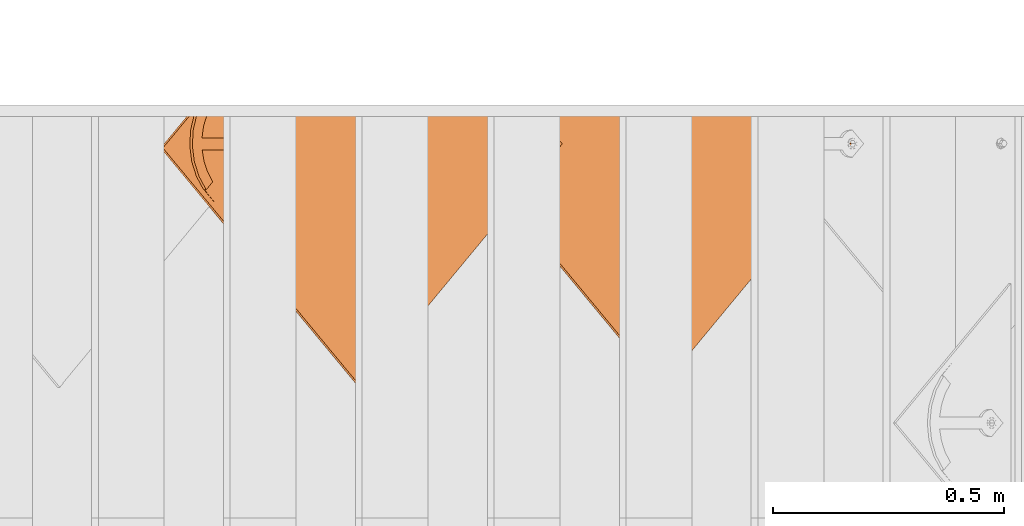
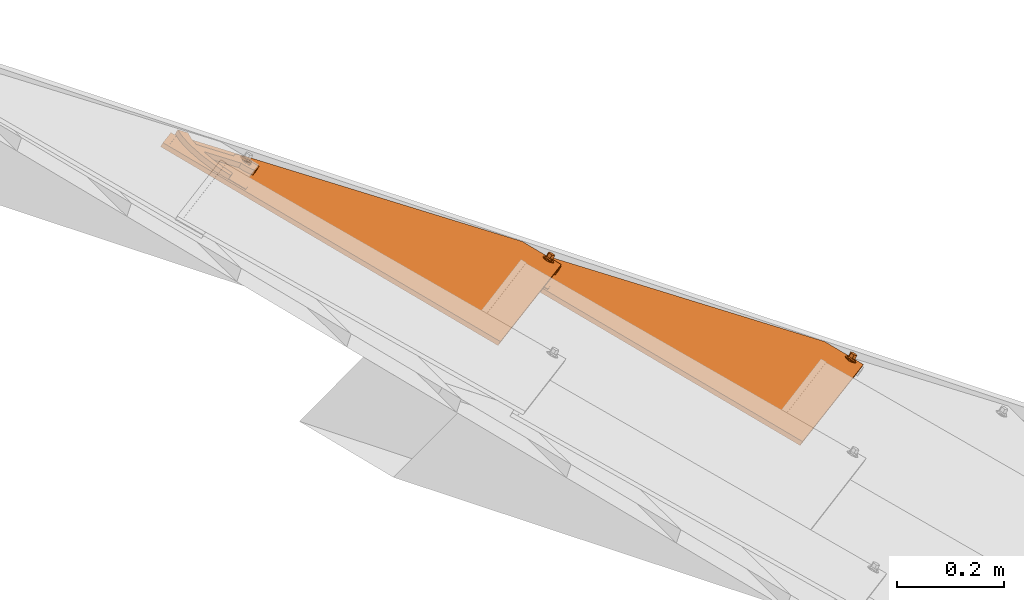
# One storey, part 88 of 133: 2 proxies.
"""IFC2X3 building model written with IfcOpenShell, lengths in millimetres."""

import ifcopenshell
import ifcopenshell.guid

model = None  # the IFC model being written
_history = None  # IfcOwnerHistory: only IFC2X3 demands one
_inside = {}  # id of a spatial element -> (the spatial element, [elements in it])
_under = {}  # id of a project, library or spatial element -> (it, [spatial elements below it])
_declared = {}  # id of a project -> (the project, [libraries it declares])
_typed = {}  # id of a type object -> (the type object, [elements of that type])
_made_of = {}  # id of a material, layer set ... -> (it, [elements and type objects made of it])


def new_model(schema):
    """Start an empty IFC model of exactly this schema.

    Asked for "IFC4X3", IfcOpenShell would pick the latest addendum, in which some entities
    have other attributes; the version numbers below select the first issue.
    IFC2X3 requires an IfcOwnerHistory on every rooted entity: one is made here for all.
    """
    global model, _history
    if schema == "IFC4X3":
        model = ifcopenshell.file(schema_version=(4, 3, 0, 0))
    else:
        model = ifcopenshell.file(schema=schema)
    _inside.clear()
    _under.clear()
    _declared.clear()
    _typed.clear()
    _made_of.clear()
    _history = None
    if model.schema == "IFC2X3":
        org = make("IfcOrganization", Name="unknown")
        user = make(
            "IfcPersonAndOrganization",
            ThePerson=make("IfcPerson", FamilyName="unknown"),
            TheOrganization=org,
        )
        app = make(
            "IfcApplication",
            ApplicationDeveloper=org,
            Version="unknown",
            ApplicationFullName="unknown",
            ApplicationIdentifier="unknown",
        )
        _history = make(
            "IfcOwnerHistory",
            OwningUser=user,
            OwningApplication=app,
            ChangeAction="ADDED",
            CreationDate=0,
        )
    return model


def make(cls, **values):
    """One entity of the class cls with the attributes given. An attribute that is None is left unset."""
    return model.create_entity(
        cls, **{name: value for name, value in values.items() if value is not None}
    )


def entity(cls, *values):
    """Any entity or typed value of the class cls, its attributes in the order of the schema. None: left unset."""
    e = model.create_entity(cls)
    for i, value in enumerate(values):
        if value is not None:
            e[i] = value
    return e


def rooted(cls, **values):
    """An entity with a GlobalId (a new one), such as an element, a storey or a relation."""
    return make(cls, GlobalId=ifcopenshell.guid.new(), OwnerHistory=_history, **values)


def si_unit(unit_type, name, prefix=None):
    """IfcSIUnit, for example si_unit("LENGTHUNIT", "METRE", prefix="MILLI")."""
    return make("IfcSIUnit", UnitType=unit_type, Prefix=prefix, Name=name)


def converted_unit(unit_type, name, factor, base, dimensions=None, offset=None):
    """IfcConversionBasedUnit, such as the inch: factor (a typed value) times the base unit."""
    return make(
        "IfcConversionBasedUnit"
        if offset is None
        else "IfcConversionBasedUnitWithOffset",
        ConversionOffset=offset,
        Dimensions=None
        if dimensions is None
        else entity("IfcDimensionalExponents", *dimensions),
        UnitType=unit_type,
        Name=name,
        ConversionFactor=make(
            "IfcMeasureWithUnit", ValueComponent=factor, UnitComponent=base
        ),
    )


def derived_unit(unit_type, elements):
    """IfcDerivedUnit: a product of units, each with its exponent."""
    return make(
        "IfcDerivedUnit",
        Elements=[
            make("IfcDerivedUnitElement", Unit=unit, Exponent=power)
            for unit, power in elements
        ],
        UnitType=unit_type,
    )


def assignment(units):
    """IfcUnitAssignment: the units of a project."""
    return None if units is None else make("IfcUnitAssignment", Units=units)


def point(xyz):
    """IfcCartesianPoint."""
    return None if xyz is None else make("IfcCartesianPoint", Coordinates=xyz)


def direction(xyz):
    """IfcDirection."""
    return None if xyz is None else make("IfcDirection", DirectionRatios=xyz)


def frame(location, z_axis=None, x_axis=None):
    """IfcAxis2Placement3D, a coordinate frame: its origin and axes. An axis left out is left unset."""
    return make(
        "IfcAxis2Placement3D",
        Location=point(location),
        Axis=direction(z_axis),
        RefDirection=direction(x_axis),
    )


def origin():
    """The frame at (0, 0, 0) with its axes left unset."""
    return frame((0.0, 0.0, 0.0))


def place(relative_to, where):
    """IfcLocalPlacement: puts the frame where relative to a parent placement (None: the world)."""
    return make(
        "IfcLocalPlacement", PlacementRelTo=relative_to, RelativePlacement=where
    )


def context(
    kind, dimensions, precision=None, world=None, true_north=None, identifier=None
):
    """IfcGeometricRepresentationContext, for example the 3D "Model" context."""
    return make(
        "IfcGeometricRepresentationContext",
        ContextIdentifier=identifier,
        ContextType=kind,
        CoordinateSpaceDimension=dimensions,
        Precision=precision,
        WorldCoordinateSystem=world,
        TrueNorth=true_north,
    )


def subcontext(parent, identifier, kind, view, scale=None):
    """IfcGeometricRepresentationSubContext, for example "Body" below "Model"."""
    return make(
        "IfcGeometricRepresentationSubContext",
        ContextIdentifier=identifier,
        ContextType=kind,
        ParentContext=parent,
        TargetScale=scale,
        TargetView=view,
    )


def project(units=None, contexts=None):
    """IfcProject with its units and contexts."""
    return rooted(
        "IfcProject",
        Name="project",
        RepresentationContexts=contexts,
        UnitsInContext=assignment(units),
    )


def spatial(cls, under=None, at=None, **own):
    """A site, building, storey or space (cls), placed at a placement, below another one or the project."""
    s = rooted(cls, ObjectPlacement=at, **own)
    if under is not None:
        _under.setdefault(under.id(), (under, []))[1].append(s)
    return s


def faces_of(points, faces, orient=None, outer=None):
    """IfcFace entities. A face is a list of loops; a loop is a list of indices into points, from 0.

    orient and outer hold one flag for each loop. By default every Orientation is true, the
    first loop of a face is its IfcFaceOuterBound and the others are IfcFaceBound.
    """
    made = []
    for i, loops in enumerate(faces):
        bounds = []
        for j, loop in enumerate(loops):
            is_outer = j == 0 if outer is None else outer[i][j]
            bounds.append(
                make(
                    "IfcFaceOuterBound" if is_outer else "IfcFaceBound",
                    Bound=make("IfcPolyLoop", Polygon=[points[k] for k in loop]),
                    Orientation=True if orient is None else orient[i][j],
                )
            )
        made.append(make("IfcFace", Bounds=bounds))
    return made


def faceted_brep(points, faces, orient=None, outer=None, voids=None):
    """IfcFacetedBrep: a solid bounded by flat faces; with voids (closed shells), ...WithVoids."""
    shared = [point(p) for p in points]
    hull = make("IfcClosedShell", CfsFaces=faces_of(shared, faces, orient, outer))
    if voids is None:
        return make("IfcFacetedBrep", Outer=hull)
    return make(
        "IfcFacetedBrepWithVoids",
        Outer=hull,
        Voids=[
            make(cls, CfsFaces=faces_of(shared, fs, o, b)) for cls, fs, o, b in voids
        ],
    )


def shape(context_of_items, identifier, shape_type, items):
    """IfcShapeRepresentation: the items that make up one representation, for example the "Body"."""
    return make(
        "IfcShapeRepresentation",
        ContextOfItems=context_of_items,
        RepresentationIdentifier=identifier,
        RepresentationType=shape_type,
        Items=items,
    )


def source(mapping_origin, context_of_items, identifier, shape_type, items):
    """IfcRepresentationMap: a shape defined once, which mapped items show again and again."""
    return make(
        "IfcRepresentationMap",
        MappingOrigin=mapping_origin,
        MappedRepresentation=shape(context_of_items, identifier, shape_type, items),
    )


def transform(
    local_origin,
    x_axis=None,
    y_axis=None,
    z_axis=None,
    scale=None,
    scale2=None,
    scale3=None,
    uniform=True,
):
    """IfcCartesianTransformationOperator3D, or its non-uniform kind. x_axis, y_axis, z_axis: its Axis1, 2, 3."""
    if uniform:
        return make(
            "IfcCartesianTransformationOperator3D",
            Axis1=direction(x_axis),
            Axis2=direction(y_axis),
            LocalOrigin=point(local_origin),
            Scale=scale,
            Axis3=direction(z_axis),
        )
    return make(
        "IfcCartesianTransformationOperator3DnonUniform",
        Axis1=direction(x_axis),
        Axis2=direction(y_axis),
        LocalOrigin=point(local_origin),
        Scale=scale,
        Axis3=direction(z_axis),
        Scale2=scale2,
        Scale3=scale3,
    )


def mapped(mapping_source, mapping_target):
    """IfcMappedItem: shows the shape of a source again, moved by a transform."""
    return make(
        "IfcMappedItem", MappingSource=mapping_source, MappingTarget=mapping_target
    )


def material(Name=None, Category=None):
    """IfcMaterial."""
    return make("IfcMaterial", Name=Name, Category=Category)


def material_list(materials):
    """IfcMaterialList."""
    return make("IfcMaterialList", Materials=materials)


def made_of(thing, what):
    """Note that an element or type object is made of a material, layer set ...; save() writes the relation."""
    if what is not None:
        _made_of.setdefault(what.id(), (what, []))[1].append(thing)
    return thing


def type_object(cls, material=None, **own):
    """A type object (cls), such as IfcWallType, which elements share."""
    return made_of(rooted(cls, **own), material)


def type_shapes(of_type, sources):
    """Give a type object the sources (RepresentationMaps) that its elements show as mapped items."""
    of_type.RepresentationMaps = sources


def element(
    cls,
    number,
    at=None,
    inside=None,
    cuts=None,
    type_object=None,
    material=None,
    context=None,
    identifier="Body",
    shape_type=None,
    held_by="IfcProductDefinitionShape",
    body=None,
    shapes=None,
    **own,
):
    """One element of the class cls, such as IfcWall. Its Tag is "e" and its number.

    at: its placement. inside: the storey or other place that contains it. cuts: it is an
    opening in that element (IfcRelVoidsElement). A single representation is given by context,
    identifier, shape_type and body (its items); several are given by shapes. held_by: the class
    of the entity that holds the representations. save() writes the other relations.
    """
    e = rooted(cls, Tag="e%d" % number, ObjectPlacement=at, **own)
    if body is not None:
        shapes = [shape(context, identifier, shape_type, body)]
    if shapes is not None:
        e.Representation = make(held_by, Representations=shapes)
    if inside is not None:
        _inside.setdefault(inside.id(), (inside, []))[1].append(e)
    if cuts is not None:
        rooted(
            "IfcRelVoidsElement", RelatingBuildingElement=cuts, RelatedOpeningElement=e
        )
    if type_object is not None:
        _typed.setdefault(type_object.id(), (type_object, []))[1].append(e)
    return made_of(e, material)


def aggregate(whole, parts):
    """IfcRelAggregates: a whole, such as a stair, and the parts it consists of."""
    return rooted("IfcRelAggregates", RelatingObject=whole, RelatedObjects=parts)


def save(model, path):
    """Write the relations noted so far, then the file.

    IfcRelAggregates (storeys below a building ...), IfcRelContainedInSpatialStructure (elements
    in a storey), IfcRelDefinesByType, IfcRelAssociatesMaterial and IfcRelDeclares: one each for
    every whole, place, type object, material and project.
    """
    for whole, parts in _under.values():
        aggregate(whole, parts)
    for where, things in _inside.values():
        rooted(
            "IfcRelContainedInSpatialStructure",
            RelatedElements=things,
            RelatingStructure=where,
        )
    for kind, things in _typed.values():
        rooted("IfcRelDefinesByType", RelatedObjects=things, RelatingType=kind)
    for what, things in _made_of.values():
        rooted("IfcRelAssociatesMaterial", RelatedObjects=things, RelatingMaterial=what)
    for by, libraries in _declared.values():
        rooted("IfcRelDeclares", RelatingContext=by, RelatedDefinitions=libraries)
    model.write(path)


model = new_model("IFC2X3")

# Units and contexts
model_context = context("Model", 3, precision=0.01, world=origin(), true_north=direction((6.12303176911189e-17, 1.0)))
body_context = subcontext(model_context, "Body", "Model", "MODEL_VIEW")
ifc_project = project(units=[si_unit("LENGTHUNIT", "METRE", prefix="MILLI"), si_unit("AREAUNIT", "SQUARE_METRE"), si_unit("VOLUMEUNIT", "CUBIC_METRE"), converted_unit("PLANEANGLEUNIT", "DEGREE", entity("IfcRatioMeasure", 0.0174532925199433), si_unit("PLANEANGLEUNIT", "RADIAN"), dimensions=[0, 0, 0, 0, 0, 0, 0]), si_unit("MASSUNIT", "GRAM", prefix="KILO"), derived_unit("MASSDENSITYUNIT", [(si_unit("MASSUNIT", "GRAM", prefix="KILO"), 1), (si_unit("LENGTHUNIT", "METRE"), -3)]), si_unit("TIMEUNIT", "SECOND"), si_unit("FREQUENCYUNIT", "HERTZ"), si_unit("THERMODYNAMICTEMPERATUREUNIT", "DEGREE_CELSIUS"), derived_unit("THERMALTRANSMITTANCEUNIT", [(si_unit("MASSUNIT", "GRAM", prefix="KILO"), 1), (si_unit("THERMODYNAMICTEMPERATUREUNIT", "KELVIN"), -1), (si_unit("TIMEUNIT", "SECOND"), -3)]), derived_unit("VOLUMETRICFLOWRATEUNIT", [(si_unit("LENGTHUNIT", "METRE"), 3), (si_unit("TIMEUNIT", "SECOND"), -1)]), si_unit("ELECTRICCURRENTUNIT", "AMPERE"), si_unit("ELECTRICVOLTAGEUNIT", "VOLT"), si_unit("POWERUNIT", "WATT"), si_unit("FORCEUNIT", "NEWTON", prefix="KILO"), si_unit("ILLUMINANCEUNIT", "LUX"), si_unit("LUMINOUSFLUXUNIT", "LUMEN"), si_unit("LUMINOUSINTENSITYUNIT", "CANDELA"), derived_unit("USERDEFINED", [(si_unit("MASSUNIT", "GRAM", prefix="KILO"), -1), (si_unit("LENGTHUNIT", "METRE"), -2), (si_unit("TIMEUNIT", "SECOND"), 3), (si_unit("LUMINOUSFLUXUNIT", "LUMEN"), 1)]), derived_unit("LINEARVELOCITYUNIT", [(si_unit("LENGTHUNIT", "METRE"), 1), (si_unit("TIMEUNIT", "SECOND"), -1)]), si_unit("PRESSUREUNIT", "PASCAL"), derived_unit("USERDEFINED", [(si_unit("LENGTHUNIT", "METRE"), -2), (si_unit("MASSUNIT", "GRAM", prefix="KILO"), 1), (si_unit("TIMEUNIT", "SECOND"), -2)])], contexts=[model_context])

# Site, building, storey
site_placement = place(None, origin())
site = spatial("IfcSite", under=ifc_project, at=site_placement, Name="Default", CompositionType="ELEMENT")
building_placement = place(site_placement, origin())
building = spatial("IfcBuilding", under=site, at=building_placement, CompositionType="ELEMENT")
storey_placement = place(building_placement, origin())
storey = spatial("IfcBuildingStorey", under=building, at=storey_placement, Name="Level 1", CompositionType="ELEMENT", Elevation=0.0)

# Proxies
ifc_material_1 = material(Name="Rubber - Sunstyle - Black")
ifc_material_2 = material(Name="Glass - Sunstyle - Tainted Black")
ifc_material_list_1 = material_list([ifc_material_1, ifc_material_2])
ifc_material_list_2 = material_list([ifc_material_1, ifc_material_2])
building_element_proxy_type = type_object("IfcBuildingElementProxyType", Name="Shingle Right - Black", PredefinedType="NOTDEFINED", material=ifc_material_list_2)
shared_shape = source(origin(), body_context, "Body", "Brep", [
    faceted_brep([(526.70519509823, 41.3127833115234, 3.87722628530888), (520.930992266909, 37.9795131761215, 3.9330502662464), (520.930992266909, 38.34782226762, 25.9249196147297), (526.70519509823, 41.6810924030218, 25.8690956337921), (520.930992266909, 31.3129729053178, 4.0446982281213), (520.930992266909, 31.6812819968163, 26.0365675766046), (526.70519509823, 27.979702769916, 4.1005222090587), (526.70519509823, 28.3480118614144, 26.092391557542), (532.47939792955, 31.3129729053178, 4.04469822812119), (532.47939792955, 31.6812819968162, 26.0365675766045), (532.47939792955, 37.9795131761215, 3.93305026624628), (532.47939792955, 38.3478222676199, 25.9249196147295), (518.101490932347, 26.4120542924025, 26.1248140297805), (526.70519509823, 22.8487830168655, 26.1844899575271), (514.537719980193, 35.0145521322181, 25.9807435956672), (518.101490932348, 43.6170499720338, 25.8366731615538), (526.70519509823, 47.1803212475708, 25.776997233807), (535.308899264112, 43.6170499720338, 25.8366731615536), (538.872670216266, 35.0145521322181, 25.9807435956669), (535.308899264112, 26.4120542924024, 26.1248140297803), (515.380950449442, 37.3096292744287, 28.2935855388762), (516.94872054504, 35.0855670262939, 30.2210682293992), (526.70519509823, 42.3986422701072, 30.8537686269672), (526.70519509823, 43.6391399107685, 30.2734219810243), (526.70519509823, 45.7966907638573, 29.2640469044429), (526.70519509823, 23.4048270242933, 27.4595479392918), (526.70519509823, 24.3484036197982, 29.6232523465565), (526.70519509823, 27.7977793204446, 31.0982967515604), (526.70519509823, 46.6672851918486, 27.0699596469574), (520.381949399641, 31.4479950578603, 31.0371647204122), (520.381949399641, 38.7484265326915, 30.9149006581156), (538.029439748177, 32.7982090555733, 28.3691406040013), (536.554075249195, 34.0111605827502, 30.1422000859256), (533.028440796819, 38.7484265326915, 30.9149006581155), (533.028440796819, 31.4479950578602, 31.0371647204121), (520.381949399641, 31.5820235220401, 39.0400528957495), (526.70519509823, 27.9318077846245, 39.1011849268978), (526.70519509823, 35.2322392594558, 38.9789208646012), (520.381949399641, 38.8824549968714, 38.9177888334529), (533.028440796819, 31.5820235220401, 39.0400528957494), (533.028440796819, 38.8824549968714, 38.9177888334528), (526.70519509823, 42.532670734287, 38.8566568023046), (526.70519509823, 34.6462430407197, 3.98887424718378)], [[[0, 1, 2, 3]], [[1, 4, 5, 2]], [[4, 6, 7, 5]], [[6, 8, 9, 7]], [[8, 10, 11, 9]], [[10, 0, 3, 11]], [[12, 7, 13]], [[7, 12, 5]], [[14, 5, 12]], [[5, 14, 2]], [[15, 2, 14]], [[3, 2, 15]], [[15, 16, 3]], [[16, 17, 3]], [[11, 3, 17]], [[11, 17, 18]], [[9, 11, 18]], [[18, 19, 9]], [[7, 9, 19]], [[19, 13, 7]], [[20, 14, 12]], [[21, 22, 23, 24]], [[24, 20, 21]], [[25, 20, 12]], [[26, 27, 21]], [[15, 14, 20]], [[12, 13, 25]], [[20, 28, 15]], [[28, 20, 24]], [[21, 27, 29]], [[21, 29, 30]], [[26, 21, 20]], [[20, 25, 26]], [[15, 28, 16]], [[21, 30, 22]], [[31, 18, 17]], [[28, 31, 17]], [[32, 27, 26]], [[26, 31, 32]], [[26, 25, 31]], [[25, 19, 31]], [[17, 16, 28]], [[31, 19, 18]], [[24, 31, 28]], [[33, 34, 32]], [[23, 22, 33]], [[24, 32, 31]], [[27, 32, 34]], [[32, 23, 33]], [[19, 25, 13]], [[32, 24, 23]], [[35, 36, 37]], [[37, 38, 35]], [[36, 39, 37]], [[40, 37, 39]], [[37, 40, 41]], [[37, 41, 38]], [[42, 6, 4]], [[4, 1, 42]], [[1, 0, 42]], [[42, 8, 6]], [[0, 10, 42]], [[8, 42, 10]], [[22, 30, 38, 41]], [[30, 29, 35, 38]], [[29, 27, 36, 35]], [[27, 34, 39, 36]], [[34, 33, 40, 39]], [[33, 22, 41, 40]]]),
    faceted_brep([(526.70519509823, 811.19100538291, 21.4210230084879), (526.70519509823, 815.690374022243, 21.3456697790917), (518.101490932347, 814.754276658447, 21.3613470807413), (535.308899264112, 814.754276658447, 21.3613470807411), (533.345423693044, 819.523574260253, 21.2814732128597), (538.872670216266, 823.356774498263, 21.2172766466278), (533.345423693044, 827.189974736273, 21.1530800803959), (535.308899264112, 831.959272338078, 21.0732062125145), (526.70519509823, 831.023174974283, 21.0888835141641), (526.70519509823, 835.522543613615, 21.0135302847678), (518.101490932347, 831.959272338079, 21.0732062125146), (520.064966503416, 827.189974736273, 21.1530800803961), (514.537719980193, 823.356774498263, 21.217276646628), (520.064966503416, 819.523574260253, 21.2814732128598), (520.064966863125, 826.922051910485, 5.15532344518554), (526.70519509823, 830.755251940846, 5.09112688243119), (520.064966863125, 819.255651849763, 5.2837165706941), (526.70519509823, 815.422451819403, 5.34791313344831), (533.345423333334, 819.255651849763, 5.28371657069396), (533.345423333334, 826.922051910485, 5.1553234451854), (518.101490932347, 814.486354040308, 5.36359044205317), (526.70519509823, 810.923082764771, 5.4232663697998), (514.537719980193, 823.088851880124, 5.21952000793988), (518.101490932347, 831.69134971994, 5.07544957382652), (526.70519509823, 835.254620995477, 5.01577364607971), (535.308899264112, 831.69134971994, 5.07544957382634), (538.872670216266, 823.088851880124, 5.21952000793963), (535.308899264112, 814.486354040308, 5.36359044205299)], [[[0, 1, 2]], [[1, 0, 3]], [[3, 4, 1]], [[4, 3, 5]], [[6, 4, 5]], [[5, 7, 6]], [[7, 8, 6]], [[8, 7, 9]], [[8, 9, 10]], [[10, 11, 8]], [[12, 11, 10]], [[2, 13, 12]], [[12, 13, 11]], [[13, 2, 1]], [[8, 11, 14, 15]], [[11, 13, 16, 14]], [[13, 1, 17, 16]], [[1, 4, 18, 17]], [[4, 6, 19, 18]], [[6, 8, 15, 19]], [[20, 17, 21]], [[17, 20, 16]], [[22, 16, 20]], [[14, 16, 22]], [[23, 14, 22]], [[15, 14, 23]], [[23, 24, 15]], [[24, 25, 15]], [[19, 15, 25]], [[19, 25, 26]], [[26, 18, 19]], [[26, 27, 18]], [[17, 18, 27]], [[27, 21, 17]], [[24, 23, 10, 9]], [[10, 23, 22, 12]], [[20, 21, 0, 2]], [[20, 2, 12, 22]], [[21, 27, 3, 0]], [[3, 27, 26, 5]], [[25, 24, 9, 7]], [[25, 7, 5, 26]]]),
    faceted_brep([(578.30986553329, 967.15023469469, 8.79467739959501), (586.794551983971, 975.634921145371, 8.65258001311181), (586.794551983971, 975.660038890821, 10.1523696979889), (578.30986553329, 967.17535244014, 10.294467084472), (517.891471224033, 1027.55168765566, 7.7831033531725), (8.48468645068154, 518.287740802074, 16.3120073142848), (0.0, 526.772427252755, 16.1699099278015), (517.891471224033, 1044.51868144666, 7.49894842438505), (517.891471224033, 1044.54379919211, 8.99873810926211), (0.0, 526.797544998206, 17.6696996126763), (8.4846864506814, 518.312858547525, 17.8117969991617), (517.891471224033, 1027.57680540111, 9.28289303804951)], [[[0, 1, 2, 3]], [[1, 0, 4, 5, 6, 7]], [[2, 1, 7, 8]], [[3, 2, 8, 9, 10, 11]], [[0, 3, 11, 4]], [[5, 10, 9, 6]], [[8, 7, 6, 9]], [[4, 11, 10, 5]]]),
    faceted_brep([(586.794551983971, 975.634921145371, 8.65258001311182), (517.891471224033, 1044.51868144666, 7.49894842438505), (523.812678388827, 834.561085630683, 11.0152157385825), (526.918506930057, 834.969918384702, 11.0083688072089), (530.024335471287, 834.561085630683, 11.0152157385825), (532.918506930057, 833.362448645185, 11.0352899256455), (535.403788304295, 831.455692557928, 11.0672233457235), (537.31081177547, 828.970759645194, 11.1088397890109), (538.509616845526, 826.076993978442, 11.1573031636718), (538.918506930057, 822.971600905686, 11.2093107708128), (538.509616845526, 819.86620783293, 11.2613183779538), (586.79455198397, 60.1087646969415, 23.9853651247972), (520.918506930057, 833.362448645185, 11.0352899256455), (518.433225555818, 831.455692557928, 11.0672233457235), (516.526202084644, 828.970759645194, 11.1088397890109), (515.327397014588, 826.076993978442, 11.1573031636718), (0.0, 526.772427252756, 16.1699099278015), (514.918506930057, 822.971600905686, 11.2093107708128), (515.327397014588, 819.86620783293, 11.2613183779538), (516.526202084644, 816.972442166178, 11.3097817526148), (518.433225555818, 814.487509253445, 11.3513981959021), (520.918506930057, 812.580753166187, 11.3833316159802), (523.812678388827, 811.382116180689, 11.4034058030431), (524.667140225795, 42.642731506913, 24.2778777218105), (522.737692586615, 41.8436401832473, 24.2912605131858), (521.080838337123, 40.572469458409, 24.3125494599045), (519.80948935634, 38.9158475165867, 24.3402937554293), (519.010285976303, 36.9866704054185, 24.37260267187), (518.737692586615, 34.9164083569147, 24.407274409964), (519.010285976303, 32.8461463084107, 24.441946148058), (526.794551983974, 0.125588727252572, 24.989934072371), (519.80948935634, 30.9169691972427, 24.4742550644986), (533.665895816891, 30.9169691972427, 24.4742550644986), (532.394546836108, 29.2603472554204, 24.5019993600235), (530.737692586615, 27.9891765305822, 24.5232883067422), (528.808244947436, 27.1900852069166, 24.5366710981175), (526.737692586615, 26.9175300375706, 24.5412357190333), (524.667140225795, 27.1900852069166, 24.5366710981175), (522.737692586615, 27.9891765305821, 24.5232883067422), (521.080838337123, 29.2603472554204, 24.5019993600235), (526.737692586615, 42.9152866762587, 24.2733131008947), (528.808244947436, 42.6427315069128, 24.2778777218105), (530.737692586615, 41.8436401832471, 24.2912605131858), (532.394546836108, 40.572469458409, 24.3125494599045), (533.665895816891, 38.9158475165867, 24.3402937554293), (534.465099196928, 36.9866704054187, 24.37260267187), (534.737692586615, 34.9164083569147, 24.407274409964), (534.465099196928, 32.8461463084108, 24.441946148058), (526.918506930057, 810.97328342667, 11.4102527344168), (537.31081177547, 816.972442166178, 11.3097817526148), (535.403788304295, 814.487509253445, 11.3513981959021), (532.918506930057, 812.580753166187, 11.3833316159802), (530.024335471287, 811.382116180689, 11.4034058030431), (0.0, 526.646838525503, 8.67096150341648), (519.80948935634, 38.790258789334, 16.8413453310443), (519.010285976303, 36.8610816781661, 16.8736542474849), (521.080838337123, 40.4468807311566, 16.8136010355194), (518.737692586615, 34.7908196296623, 16.9083259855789), (519.010285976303, 32.7205575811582, 16.9429977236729), (526.794551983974, 0.0, 17.4909856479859), (522.737692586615, 41.7180514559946, 16.7923120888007), (524.667140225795, 42.5171427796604, 16.7789292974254), (523.812678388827, 811.256527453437, 3.90445737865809), (520.918506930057, 812.455164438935, 3.88438319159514), (518.433225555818, 814.361920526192, 3.85244977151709), (516.526202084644, 816.846853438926, 3.81083332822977), (515.327397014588, 819.740619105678, 3.76236995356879), (514.918506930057, 822.846012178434, 3.71036234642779), (515.327397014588, 825.95140525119, 3.65835473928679), (517.891471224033, 1044.39309271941, 0.0), (516.526202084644, 828.845170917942, 3.60989136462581), (518.433225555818, 831.330103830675, 3.56827492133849), (520.918506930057, 833.236859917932, 3.53634150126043), (523.812678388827, 834.435496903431, 3.51626731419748), (586.794551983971, 975.509332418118, 1.15363158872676), (526.918506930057, 834.84432965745, 3.50942038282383), (530.024335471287, 834.435496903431, 3.51626731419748), (532.918506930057, 833.236859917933, 3.53634150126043), (535.403788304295, 831.330103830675, 3.56827492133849), (537.31081177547, 828.845170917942, 3.60989136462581), (538.509616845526, 825.95140525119, 3.65835473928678), (538.918506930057, 822.846012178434, 3.71036234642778), (538.509616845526, 819.740619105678, 3.76236995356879), (586.79455198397, 59.983175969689, 16.4864167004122), (526.737692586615, 42.7896979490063, 16.7743646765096), (528.808244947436, 42.5171427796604, 16.7789292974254), (530.737692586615, 41.7180514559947, 16.7923120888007), (532.394546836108, 40.4468807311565, 16.8136010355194), (533.665895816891, 30.7913804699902, 16.9753066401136), (534.465099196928, 32.7205575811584, 16.9429977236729), (534.737692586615, 34.7908196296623, 16.9083259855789), (534.465099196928, 36.8610816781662, 16.8736542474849), (533.665895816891, 38.7902587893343, 16.8413453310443), (526.918506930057, 810.847694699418, 3.91130431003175), (530.024335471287, 811.256527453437, 3.90445737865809), (532.918506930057, 812.455164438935, 3.88438319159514), (535.403788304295, 814.361920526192, 3.85244977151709), (537.31081177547, 816.846853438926, 3.81083332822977), (519.80948935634, 30.7913804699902, 16.9753066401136), (521.080838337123, 29.134758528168, 17.0030509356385), (522.737692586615, 27.8635878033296, 17.0243398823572), (524.667140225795, 27.0644964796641, 17.0377226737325), (526.737692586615, 26.7919413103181, 17.0422872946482), (528.808244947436, 27.0644964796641, 17.0377226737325), (530.737692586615, 27.8635878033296, 17.0243398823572), (532.394546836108, 29.1347585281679, 17.0030509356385)], [[[0, 1, 2]], [[0, 2, 3]], [[3, 4, 0]], [[4, 5, 0]], [[0, 5, 6]], [[6, 7, 0]], [[7, 8, 0]], [[8, 9, 0]], [[9, 10, 0]], [[0, 10, 11]], [[2, 1, 12]], [[13, 12, 1]], [[14, 13, 1]], [[14, 1, 15]], [[15, 1, 16]], [[16, 17, 15]], [[17, 16, 18]], [[19, 18, 16]], [[19, 16, 20]], [[21, 20, 16]], [[22, 21, 16]], [[23, 22, 16]], [[24, 23, 16]], [[16, 25, 24]], [[25, 16, 26]], [[26, 16, 27]], [[28, 27, 16]], [[28, 16, 29]], [[29, 16, 30]], [[30, 31, 29]], [[11, 32, 30]], [[30, 32, 33]], [[34, 30, 33]], [[34, 35, 30]], [[36, 30, 35]], [[30, 36, 37]], [[37, 38, 30]], [[38, 39, 30]], [[39, 31, 30]], [[23, 11, 22]], [[11, 23, 40]], [[11, 40, 41]], [[11, 41, 42]], [[42, 43, 11]], [[44, 11, 43]], [[44, 45, 11]], [[45, 46, 11]], [[47, 11, 46]], [[11, 47, 32]], [[22, 11, 48]], [[10, 49, 11]], [[49, 50, 11]], [[50, 51, 11]], [[51, 52, 11]], [[52, 48, 11]], [[53, 54, 55]], [[54, 53, 56]], [[53, 55, 57]], [[57, 58, 53]], [[53, 58, 59]], [[60, 56, 53]], [[61, 60, 53]], [[61, 53, 62]], [[62, 53, 63]], [[53, 64, 63]], [[64, 53, 65]], [[65, 53, 66]], [[66, 53, 67]], [[67, 53, 68]], [[53, 69, 68]], [[70, 68, 69]], [[71, 70, 69]], [[69, 72, 71]], [[73, 72, 69]], [[73, 69, 74]], [[75, 73, 74]], [[75, 74, 76]], [[77, 76, 74]], [[74, 78, 77]], [[79, 78, 74]], [[80, 79, 74]], [[80, 74, 81]], [[81, 74, 82]], [[82, 74, 83]], [[84, 61, 83]], [[83, 85, 84]], [[86, 85, 83]], [[83, 87, 86]], [[59, 88, 83]], [[83, 88, 89]], [[90, 83, 89]], [[90, 91, 83]], [[91, 92, 83]], [[87, 83, 92]], [[62, 83, 61]], [[93, 83, 62]], [[83, 93, 94]], [[94, 95, 83]], [[83, 95, 96]], [[96, 97, 83]], [[97, 82, 83]], [[59, 58, 98]], [[99, 59, 98]], [[99, 100, 59]], [[100, 101, 59]], [[102, 59, 101]], [[59, 102, 103]], [[59, 103, 104]], [[104, 105, 59]], [[105, 88, 59]], [[16, 1, 69, 53]], [[30, 16, 53, 59]], [[11, 30, 59, 83]], [[1, 0, 74, 69]], [[28, 57, 55, 27]], [[27, 55, 54, 26]], [[24, 25, 56, 60]], [[56, 25, 26, 54]], [[23, 24, 60, 61]], [[23, 61, 84, 40]], [[40, 84, 85, 41]], [[41, 85, 86, 42]], [[44, 43, 87, 92]], [[87, 43, 42, 86]], [[45, 44, 92, 91]], [[45, 91, 90, 46]], [[46, 90, 89, 47]], [[47, 89, 88, 32]], [[34, 33, 105, 104]], [[105, 33, 32, 88]], [[35, 34, 104, 103]], [[35, 103, 102, 36]], [[36, 102, 101, 37]], [[37, 101, 100, 38]], [[31, 39, 99, 98]], [[39, 38, 100, 99]], [[58, 29, 31, 98]], [[29, 58, 57, 28]], [[17, 67, 68, 15]], [[15, 68, 70, 14]], [[12, 13, 71, 72]], [[71, 13, 14, 70]], [[2, 12, 72, 73]], [[2, 73, 75, 3]], [[3, 75, 76, 4]], [[4, 76, 77, 5]], [[7, 6, 78, 79]], [[78, 6, 5, 77]], [[8, 7, 79, 80]], [[8, 80, 81, 9]], [[9, 81, 82, 10]], [[10, 82, 97, 49]], [[51, 50, 96, 95]], [[96, 50, 49, 97]], [[52, 51, 95, 94]], [[52, 94, 93, 48]], [[48, 93, 62, 22]], [[22, 62, 63, 21]], [[19, 20, 64, 65]], [[64, 20, 21, 63]], [[18, 19, 65, 66]], [[18, 66, 67, 17]], [[0, 11, 83, 74]]]),
    faceted_brep([(503.195324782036, 841.557074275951, 20.8994526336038), (517.914693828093, 832.008099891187, 21.0593741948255), (507.695869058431, 846.190079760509, 20.8218613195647), (516.007670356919, 829.523166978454, 21.1009906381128), (499.815755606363, 836.052923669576, 20.9916334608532), (514.808865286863, 826.629401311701, 21.1494540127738), (497.720422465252, 829.943523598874, 21.0939507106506), (514.399975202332, 823.524008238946, 21.2014616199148), (497.010547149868, 823.524008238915, 21.2014616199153), (514.808865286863, 820.41861516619, 21.2534692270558), (516.007670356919, 817.524849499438, 21.3019326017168), (517.914693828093, 815.039916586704, 21.3435490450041), (526.399975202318, 794.138700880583, 21.6935924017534), (520.399975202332, 813.133160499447, 21.3754824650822), (523.294146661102, 811.934523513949, 21.3955566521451), (526.399975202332, 811.52569075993, 21.4024035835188), (529.505803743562, 811.934523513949, 21.3955566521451), (532.399975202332, 813.133160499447, 21.3754824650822), (534.885256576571, 815.039916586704, 21.3435490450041), (555.789403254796, 823.524008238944, 21.2014616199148), (536.792280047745, 817.524849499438, 21.3019326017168), (537.991085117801, 820.41861516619, 21.2534692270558), (538.399975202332, 823.524008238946, 21.2014616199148), (555.079527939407, 829.943523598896, 21.0939507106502), (537.991085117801, 826.629401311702, 21.1494540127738), (552.984194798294, 836.052923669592, 20.9916334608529), (536.792280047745, 829.523166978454, 21.1009906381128), (549.604625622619, 841.557074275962, 20.8994526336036), (534.88525657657, 832.008099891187, 21.0593741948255), (545.104081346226, 846.190079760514, 20.8218613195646), (532.399975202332, 833.914855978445, 21.0274407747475), (539.69997520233, 849.728127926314, 20.7626078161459), (529.505803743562, 835.113492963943, 21.0073665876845), (526.399975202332, 835.522325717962, 21.0005196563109), (513.09997520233, 849.728127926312, 20.762607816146), (513.099975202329, 947.789128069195, 19.1203300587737), (539.699975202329, 948.373752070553, 19.1105390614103), (522.252457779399, 973.425526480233, 18.6909841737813), (556.520926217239, 971.308509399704, 18.7264389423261), (565.239246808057, 944.126992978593, 19.1816617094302), (589.568348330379, 961.999667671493, 18.8823388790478), (589.568348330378, 935.274464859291, 19.3299195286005), (488.310294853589, 968.25512753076, 18.7775754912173), (488.729131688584, 942.717602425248, 19.2052654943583), (456.227055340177, 956.030775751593, 18.9823029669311), (465.633151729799, 933.432284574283, 19.3607714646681), (444.534595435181, 920.223666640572, 19.5819829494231), (427.451419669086, 937.304447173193, 19.2959223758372), (520.399975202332, 833.914855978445, 21.0274407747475), (523.294146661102, 835.113492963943, 21.0073665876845), (526.399975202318, 793.971249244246, 11.6949945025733), (526.399975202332, 811.358239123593, 11.4038056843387), (529.505803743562, 811.767071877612, 11.396958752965), (523.294146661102, 811.767071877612, 11.396958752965), (532.399975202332, 812.96570886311, 11.3768845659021), (534.885256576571, 814.872464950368, 11.344951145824), (555.789403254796, 823.356556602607, 11.2028637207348), (520.399975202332, 812.96570886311, 11.3768845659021), (517.914693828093, 814.872464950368, 11.344951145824), (497.010547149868, 823.356556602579, 11.2028637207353), (516.007670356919, 817.357397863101, 11.3033347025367), (514.808865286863, 820.251163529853, 11.2548713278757), (514.399975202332, 823.356556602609, 11.2028637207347), (497.720422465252, 829.776071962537, 11.0953528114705), (514.808865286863, 826.461949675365, 11.1508561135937), (499.815755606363, 835.885472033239, 10.9930355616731), (516.007670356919, 829.355715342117, 11.1023927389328), (503.195324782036, 841.389622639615, 10.9008547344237), (517.914693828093, 831.84064825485, 11.0607762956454), (507.695869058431, 846.022628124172, 10.8232634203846), (520.399975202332, 833.747404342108, 11.0288428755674), (513.09997520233, 849.560676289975, 10.7640099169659), (523.294146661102, 834.946041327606, 11.0087686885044), (526.399975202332, 835.354874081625, 11.0019217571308), (539.69997520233, 849.560676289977, 10.7640099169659), (513.099975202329, 947.621676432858, 9.12173215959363), (539.69997520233, 948.206300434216, 9.11194116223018), (522.252457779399, 973.258074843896, 8.69238627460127), (488.310294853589, 968.087675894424, 8.77897759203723), (488.729131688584, 942.550150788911, 9.20666759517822), (456.227055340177, 955.863324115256, 8.98370506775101), (465.633151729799, 933.264832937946, 9.36217356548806), (444.533467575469, 920.055518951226, 9.58339670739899), (428.044288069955, 936.544210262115, 9.30725215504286), (421.793762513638, 931.184466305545, 9.39701453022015), (415.826529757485, 925.515365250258, 9.49195786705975), (418.207622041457, 893.733364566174, 10.0242272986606), (401.122816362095, 910.815774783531, 9.73813943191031), (427.451419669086, 937.136995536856, 9.29732447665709), (556.520926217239, 971.141057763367, 8.727841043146), (565.239246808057, 943.959541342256, 9.18306381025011), (589.568348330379, 961.832216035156, 8.88374097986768), (589.568348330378, 935.107013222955, 9.33132162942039), (529.505803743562, 834.946041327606, 11.0087686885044), (532.399975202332, 833.747404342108, 11.0288428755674), (545.104081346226, 846.022628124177, 10.8232634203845), (534.88525657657, 831.84064825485, 11.0607762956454), (549.604625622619, 841.389622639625, 10.9008547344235), (536.792280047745, 829.355715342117, 11.1023927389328), (552.984194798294, 835.885472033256, 10.9930355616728), (537.991085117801, 826.461949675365, 11.1508561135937), (555.079527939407, 829.77607196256, 11.0953528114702), (538.399975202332, 823.356556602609, 11.2028637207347), (537.991085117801, 820.251163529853, 11.2548713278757), (536.792280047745, 817.357397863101, 11.3033347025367), (415.826529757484, 925.557228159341, 11.9916073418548), (401.122816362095, 910.857637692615, 12.2377889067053), (418.207622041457, 893.775227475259, 12.5238767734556), (444.534595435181, 920.09807791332, 12.083034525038), (428.042008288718, 936.584216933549, 11.8069327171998), (421.793762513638, 931.226329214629, 11.8966640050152)], [[[0, 1, 2]], [[3, 1, 0]], [[4, 3, 0]], [[5, 3, 4]], [[4, 6, 5]], [[6, 7, 5]], [[7, 6, 8]], [[9, 7, 8]], [[10, 9, 8]], [[10, 8, 11]], [[8, 12, 11]], [[13, 11, 12]], [[13, 12, 14]], [[12, 15, 14]], [[15, 12, 16]], [[16, 12, 17]], [[18, 17, 12]], [[18, 12, 19]], [[19, 20, 18]], [[21, 20, 19]], [[22, 21, 19]], [[19, 23, 22]], [[24, 22, 23]], [[23, 25, 24]], [[25, 26, 24]], [[26, 25, 27]], [[28, 26, 27]], [[27, 29, 28]], [[30, 28, 29]], [[29, 31, 30]], [[30, 31, 32]], [[32, 31, 33]], [[31, 34, 33]], [[35, 34, 31]], [[35, 31, 36]], [[36, 37, 35]], [[36, 38, 37]], [[39, 38, 36]], [[38, 39, 40]], [[41, 40, 39]], [[37, 42, 35]], [[35, 42, 43]], [[43, 42, 44]], [[44, 45, 43]], [[44, 46, 45]], [[46, 44, 47]], [[48, 34, 2]], [[48, 49, 34]], [[34, 49, 33]], [[48, 2, 1]], [[50, 51, 52]], [[51, 50, 53]], [[50, 52, 54]], [[54, 55, 50]], [[50, 55, 56]], [[57, 53, 50]], [[58, 57, 50]], [[58, 50, 59]], [[59, 60, 58]], [[60, 59, 61]], [[61, 59, 62]], [[63, 62, 59]], [[64, 62, 63]], [[63, 65, 64]], [[64, 65, 66]], [[65, 67, 66]], [[68, 66, 67]], [[69, 68, 67]], [[69, 70, 68]], [[70, 69, 71]], [[71, 72, 70]], [[71, 73, 72]], [[74, 73, 71]], [[71, 75, 74]], [[75, 76, 74]], [[76, 75, 77]], [[77, 75, 78]], [[79, 78, 75]], [[80, 78, 79]], [[79, 81, 80]], [[81, 82, 80]], [[82, 83, 80]], [[84, 83, 82]], [[84, 82, 85]], [[82, 86, 85]], [[86, 87, 85]], [[83, 88, 80]], [[76, 77, 89]], [[89, 90, 76]], [[90, 89, 91]], [[91, 92, 90]], [[93, 73, 74]], [[74, 94, 93]], [[94, 74, 95]], [[95, 96, 94]], [[95, 97, 96]], [[96, 97, 98]], [[99, 98, 97]], [[99, 100, 98]], [[101, 100, 99]], [[102, 100, 101]], [[56, 102, 101]], [[103, 102, 56]], [[56, 55, 104]], [[103, 56, 104]], [[34, 35, 75, 71]], [[2, 34, 71, 69]], [[0, 2, 69, 67]], [[67, 65, 4, 0]], [[6, 4, 65, 63]], [[8, 6, 63, 59]], [[12, 8, 59, 50]], [[19, 12, 50, 56]], [[23, 19, 56, 101]], [[25, 23, 101, 99]], [[99, 97, 27, 25]], [[29, 27, 97, 95]], [[31, 29, 95, 74]], [[36, 31, 74, 76]], [[38, 40, 91, 89]], [[37, 38, 89, 77]], [[77, 78, 42, 37]], [[44, 42, 78, 80]], [[47, 44, 80, 88]], [[7, 62, 64, 5]], [[5, 64, 66, 3]], [[48, 1, 68, 70]], [[66, 68, 1, 3]], [[49, 48, 70, 72]], [[73, 33, 49, 72]], [[32, 93, 94, 30]], [[30, 94, 96, 28]], [[24, 26, 98, 100]], [[96, 98, 26, 28]], [[22, 24, 100, 102]], [[32, 33, 73, 93]], [[22, 102, 103, 21]], [[21, 103, 104, 20]], [[17, 18, 55, 54]], [[104, 55, 18, 20]], [[16, 17, 54, 52]], [[51, 15, 16, 52]], [[14, 53, 57, 13]], [[13, 57, 58, 11]], [[9, 10, 60, 61]], [[58, 60, 10, 11]], [[7, 9, 61, 62]], [[14, 15, 51, 53]], [[105, 106, 107, 108, 109, 110]], [[107, 106, 87, 86]], [[108, 107, 82]], [[86, 82, 107]], [[109, 83, 110]], [[110, 83, 84]], [[84, 85, 105, 110]], [[106, 105, 85, 87]], [[46, 47, 109]], [[109, 47, 88]], [[46, 109, 108]], [[83, 109, 88]], [[108, 81, 45, 46]], [[108, 82, 81]], [[79, 75, 35, 43]], [[81, 79, 43, 45]], [[76, 90, 39, 36]], [[92, 41, 39, 90]], [[40, 41, 92, 91]]]),
])
type_shapes(building_element_proxy_type, [shared_shape])
proxy_1_placement = place(storey_placement, frame((3496.87135604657, 3339.29840556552, 1227.13702310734), z_axis=(0.573576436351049, 0.0, 0.81915204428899), x_axis=(0.0, 1.0, 0.0)))
element("IfcBuildingElementProxy", 1, at=proxy_1_placement, inside=storey, type_object=building_element_proxy_type, material=ifc_material_list_1, Name="Roofing_Panels_SunStyle_Tile_Shingle-Right:Shingle Right - Black", ObjectType="Roofing_Panels_SunStyle_Tile_Shingle-Right:Shingle Right - Black", context=body_context, shape_type="MappedRepresentation", body=[
    mapped(shared_shape, transform((0.0, 0.0, 0.0), scale=1.0)),
])
ifc_material_list_3 = material_list([ifc_material_1, ifc_material_2])
proxy_2_placement = place(storey_placement, frame((4148.98091393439, 3339.68409430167, 770.524994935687), z_axis=(0.573576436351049, 0.0, 0.81915204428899), x_axis=(0.0, 1.0, 0.0)))
element("IfcBuildingElementProxy", 2, at=proxy_2_placement, inside=storey, type_object=building_element_proxy_type, material=ifc_material_list_3, Name="Roofing_Panels_SunStyle_Tile_Shingle-Right:Shingle Right - Black", ObjectType="Roofing_Panels_SunStyle_Tile_Shingle-Right:Shingle Right - Black", context=body_context, shape_type="MappedRepresentation", body=[
    mapped(shared_shape, transform((0.0, 0.0, 0.0), scale=1.0)),
])

save(model, "model.ifc")
